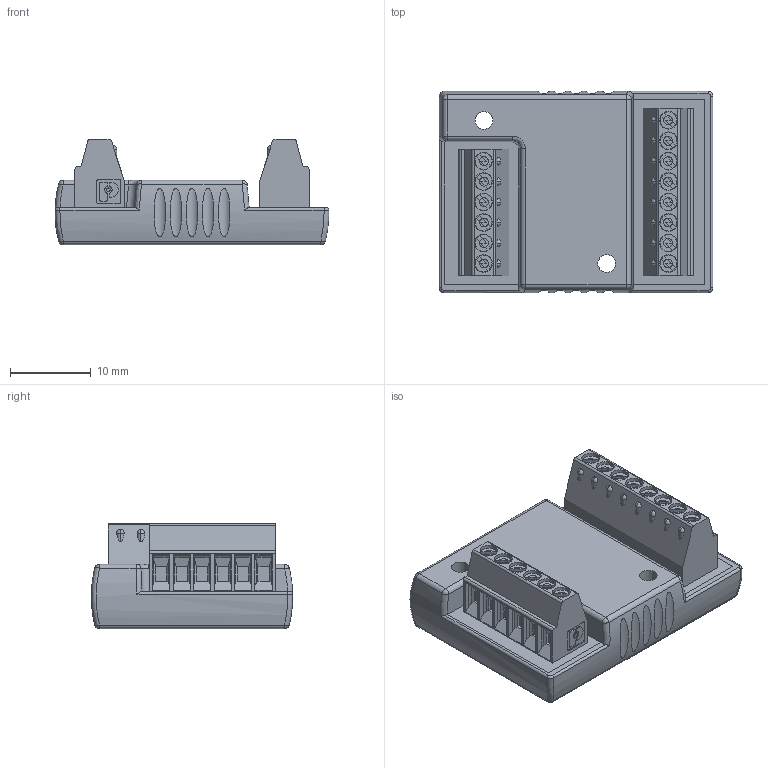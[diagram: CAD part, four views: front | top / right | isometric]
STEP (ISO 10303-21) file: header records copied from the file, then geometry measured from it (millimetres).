
FILE_DESCRIPTION(/* description */ (''),/* implementation_level */ '2;1');
FILE_NAME(/* name */ 'SC1801S.stp',/* time_stamp */ '2012-07-13T13:51:46+02:00',/* author */ ('DR. FRITZ FAULHABER GmbH & Co. KG'),/* organization */ ('DR. FRITZ FAULHABER GmbH & Co. KG'),/* preprocessor_version */ 'ST-DEVELOPER v11',/* originating_system */ 'SIEMENS PLM Software NX 7.5',/* authorisation */ '');
FILE_SCHEMA (('AUTOMOTIVE_DESIGN { 1 0 10303 214 1 1 1 1 }'));
Length unit declared in the file: millimetre
Products named in the file (1): SC1801x
Bounding box: 34 x 25 x 13.1 mm (x, y, z)
Volume: 6513.2 mm3; surface area: 3764 mm2
Topology: 1 solids, 1 shells, 764 faces, 1788 edges, 1098 vertices
Faces by surface type: plane 498, cylinder 213, sphere 37, bspline 12, cone 4
Full cylindrical faces by diameter (mm): 1.5 x1, 2 x4, 2.2 x2
Entity records: 22874 total; most frequent: CARTESIAN_POINT 5163, DIRECTION 3820, ORIENTED_EDGE 3534, EDGE_CURVE 1767, AXIS2_PLACEMENT_3D 1358, LINE 1104, VECTOR 1104, VERTEX_POINT 1097
